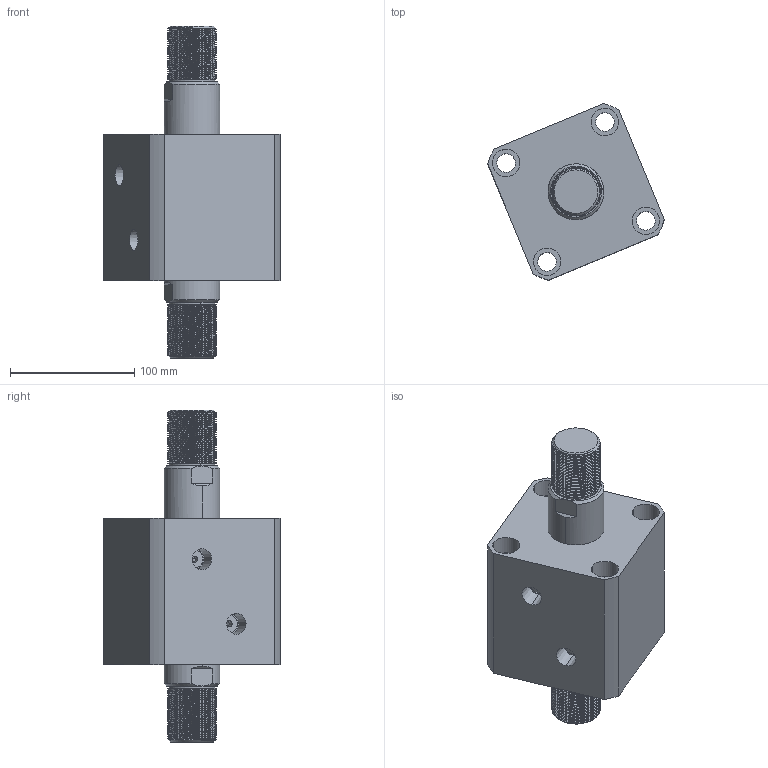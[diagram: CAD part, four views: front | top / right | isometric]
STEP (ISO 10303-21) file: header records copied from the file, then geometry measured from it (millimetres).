
FILE_DESCRIPTION (( 'STEP AP214' ), '1' );
FILE_NAME ('chtb-sw80x25w_asm.STEP', '2018-05-28T01:41:52', ( 'Windows' ), ( 'Microsoft' ), 'SwSTEP 2.0', 'SolidWorks 2015', '' );
FILE_SCHEMA (( 'AUTOMOTIVE_DESIGN' ));
Length unit declared in the file: millimetre
Products named in the file (4): chtb-sw80x25w_asm; CHTB-SW80X25WHSG; CHTB-SW80X25NBT; CHTB-SD80QG
Assembly tree (3 placements, depth 2):
  chtb-sw80x25w_asm
    CHTB-SD80QG
    CHTB-SW80X25NBT
    CHTB-SW80X25WHSG
Bounding box: 142.06 x 142.06 x 267 mm (x, y, z)
Volume: 1494385.2 mm3; surface area: 210966.2 mm2
Topology: 3 solids, 3 shells, 330 faces, 908 edges, 607 vertices
Faces by surface type: cylinder 221, plane 48, cone 25, bspline 18, torus 18
Entity records: 25864 total; most frequent: CARTESIAN_POINT 18238, ORIENTED_EDGE 1808, DIRECTION 1338, EDGE_CURVE 904, VERTEX_POINT 607, AXIS2_PLACEMENT_3D 532, EDGE_LOOP 373, FACE_OUTER_BOUND 330
